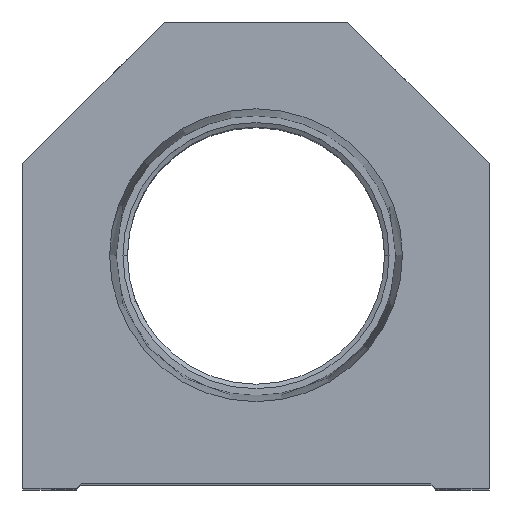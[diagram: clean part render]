
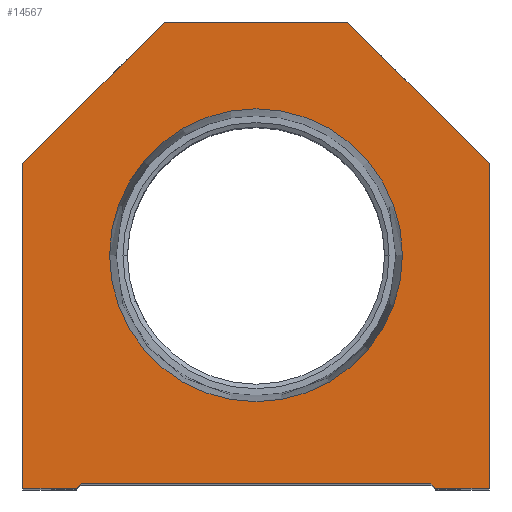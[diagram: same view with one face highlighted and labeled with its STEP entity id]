
A CAD part, top view. The second image highlights one B-rep face of the part: STEP entity #14567.
In plain terms, the highlighted planar face has unit normal (0, 0, 1).
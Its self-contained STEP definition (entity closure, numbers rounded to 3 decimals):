
#61 = EDGE_CURVE ( 'NONE', #9214, #12433, #3705, .T. ) ;
#377 = AXIS2_PLACEMENT_3D ( 'NONE', #14531, #766, #3542 ) ;
#611 = VECTOR ( 'NONE', #11131, 1000. ) ;
#653 = DIRECTION ( 'NONE',  ( 0., -1., 0. ) ) ;
#714 = CARTESIAN_POINT ( 'NONE',  ( -9.775, 9.775, 0. ) ) ;
#766 = DIRECTION ( 'NONE',  ( 0., 0., 1. ) ) ;
#881 = CARTESIAN_POINT ( 'NONE',  ( -19.05, 0.5, 0. ) ) ;
#882 = DIRECTION ( 'NONE',  ( 0., 0., 1. ) ) ;
#951 = ORIENTED_EDGE ( 'NONE', *, *, #1193, .F. ) ;
#1040 = VERTEX_POINT ( 'NONE', #14560 ) ;
#1073 = CARTESIAN_POINT ( 'NONE',  ( -25.4, 35.4, 0. ) ) ;
#1169 = CIRCLE ( 'NONE', #377, 15.947 ) ;
#1193 = EDGE_CURVE ( 'NONE', #1754, #1040, #6827, .T. ) ;
#1460 = VERTEX_POINT ( 'NONE', #1560 ) ;
#1540 = DIRECTION ( 'NONE',  ( 1., 0., 0. ) ) ;
#1560 = CARTESIAN_POINT ( 'NONE',  ( 25.4, 35.4, 0. ) ) ;
#1724 = ORIENTED_EDGE ( 'NONE', *, *, #9687, .T. ) ;
#1754 = VERTEX_POINT ( 'NONE', #8595 ) ;
#1769 = CARTESIAN_POINT ( 'NONE',  ( 10., 50.8, 0. ) ) ;
#2103 = FACE_BOUND ( 'NONE', #7082, .T. ) ;
#2371 = CARTESIAN_POINT ( 'NONE',  ( -25.4, 35.4, 0. ) ) ;
#2385 = VERTEX_POINT ( 'NONE', #2371 ) ;
#2792 = ORIENTED_EDGE ( 'NONE', *, *, #10096, .T. ) ;
#2834 = ORIENTED_EDGE ( 'NONE', *, *, #15370, .T. ) ;
#2995 = EDGE_CURVE ( 'NONE', #6760, #2385, #5976, .T. ) ;
#3068 = DIRECTION ( 'NONE',  ( 1., 0., 0. ) ) ;
#3096 = VECTOR ( 'NONE', #653, 1000. ) ;
#3285 = LINE ( 'NONE', #11027, #13303 ) ;
#3404 = VERTEX_POINT ( 'NONE', #1769 ) ;
#3542 = DIRECTION ( 'NONE',  ( 1., 0., 0. ) ) ;
#3705 = LINE ( 'NONE', #13868, #611 ) ;
#3954 = ORIENTED_EDGE ( 'NONE', *, *, #7252, .F. ) ;
#4369 = ORIENTED_EDGE ( 'NONE', *, *, #7360, .T. ) ;
#4757 = DIRECTION ( 'NONE',  ( -0.707, -0.707, 0. ) ) ;
#5377 = ORIENTED_EDGE ( 'NONE', *, *, #2995, .T. ) ;
#5432 = CARTESIAN_POINT ( 'NONE',  ( -19.05, 0.5, 0. ) ) ;
#5928 = ORIENTED_EDGE ( 'NONE', *, *, #10319, .T. ) ;
#5976 = LINE ( 'NONE', #1073, #7223 ) ;
#6760 = VERTEX_POINT ( 'NONE', #10700 ) ;
#6827 = CIRCLE ( 'NONE', #10459, 15.947 ) ;
#6909 = EDGE_CURVE ( 'NONE', #10987, #9214, #9452, .T. ) ;
#7082 = EDGE_LOOP ( 'NONE', ( #3954, #951 ) ) ;
#7098 = PLANE ( 'NONE',  #12498 ) ;
#7163 = CARTESIAN_POINT ( 'NONE',  ( -19.55, 0., 0. ) ) ;
#7223 = VECTOR ( 'NONE', #4757, 1000. ) ;
#7252 = EDGE_CURVE ( 'NONE', #1040, #1754, #1169, .T. ) ;
#7262 = VERTEX_POINT ( 'NONE', #7163 ) ;
#7273 = VECTOR ( 'NONE', #9384, 1000. ) ;
#7360 = EDGE_CURVE ( 'NONE', #1460, #3404, #10467, .T. ) ;
#7625 = CARTESIAN_POINT ( 'NONE',  ( -19.05, 0., 0. ) ) ;
#7697 = DIRECTION ( 'NONE',  ( 1., 0., 0. ) ) ;
#7963 = DIRECTION ( 'NONE',  ( 0., 0., 1. ) ) ;
#8093 = LINE ( 'NONE', #15565, #3096 ) ;
#8194 = ORIENTED_EDGE ( 'NONE', *, *, #11079, .T. ) ;
#8195 = CARTESIAN_POINT ( 'NONE',  ( 25.4, 0., 0. ) ) ;
#8382 = ORIENTED_EDGE ( 'NONE', *, *, #15238, .T. ) ;
#8595 = CARTESIAN_POINT ( 'NONE',  ( -15.947, 25.4, 0. ) ) ;
#8750 = LINE ( 'NONE', #13762, #14601 ) ;
#8765 = LINE ( 'NONE', #7625, #11941 ) ;
#8799 = VECTOR ( 'NONE', #13146, 1000. ) ;
#9214 = VERTEX_POINT ( 'NONE', #12497 ) ;
#9310 = EDGE_LOOP ( 'NONE', ( #2792, #1724, #10555, #13966, #2834, #8194, #4369, #8382, #5377, #5928 ) ) ;
#9384 = DIRECTION ( 'NONE',  ( 0.707, 0.707, 0. ) ) ;
#9429 = LINE ( 'NONE', #8195, #8799 ) ;
#9452 = LINE ( 'NONE', #5432, #14101 ) ;
#9622 = FACE_OUTER_BOUND ( 'NONE', #9310, .T. ) ;
#9687 = EDGE_CURVE ( 'NONE', #7262, #10987, #15547, .T. ) ;
#9878 = CARTESIAN_POINT ( 'NONE',  ( 25.4, 0., 0. ) ) ;
#10096 = EDGE_CURVE ( 'NONE', #14020, #7262, #8765, .T. ) ;
#10319 = EDGE_CURVE ( 'NONE', #2385, #14020, #8093, .T. ) ;
#10323 = DIRECTION ( 'NONE',  ( 1., 0., 0. ) ) ;
#10457 = VERTEX_POINT ( 'NONE', #9878 ) ;
#10459 = AXIS2_PLACEMENT_3D ( 'NONE', #15202, #7963, #10323 ) ;
#10467 = LINE ( 'NONE', #12892, #13165 ) ;
#10555 = ORIENTED_EDGE ( 'NONE', *, *, #6909, .T. ) ;
#10700 = CARTESIAN_POINT ( 'NONE',  ( -10., 50.8, 0. ) ) ;
#10987 = VERTEX_POINT ( 'NONE', #881 ) ;
#11027 = CARTESIAN_POINT ( 'NONE',  ( 10., 50.8, 0. ) ) ;
#11079 = EDGE_CURVE ( 'NONE', #10457, #1460, #9429, .T. ) ;
#11131 = DIRECTION ( 'NONE',  ( 0.707, -0.707, 0. ) ) ;
#11941 = VECTOR ( 'NONE', #7697, 1000. ) ;
#12041 = CARTESIAN_POINT ( 'NONE',  ( 0., 0., 0. ) ) ;
#12433 = VERTEX_POINT ( 'NONE', #13584 ) ;
#12497 = CARTESIAN_POINT ( 'NONE',  ( 19.05, 0.5, 0. ) ) ;
#12498 = AXIS2_PLACEMENT_3D ( 'NONE', #12041, #882, #15537 ) ;
#12892 = CARTESIAN_POINT ( 'NONE',  ( 25.4, 35.4, 0. ) ) ;
#13146 = DIRECTION ( 'NONE',  ( 0., 1., 0. ) ) ;
#13165 = VECTOR ( 'NONE', #15416, 1000. ) ;
#13303 = VECTOR ( 'NONE', #13453, 1000. ) ;
#13453 = DIRECTION ( 'NONE',  ( -1., 0., 0. ) ) ;
#13584 = CARTESIAN_POINT ( 'NONE',  ( 19.55, 0., 0. ) ) ;
#13762 = CARTESIAN_POINT ( 'NONE',  ( 19.05, 0., 0. ) ) ;
#13868 = CARTESIAN_POINT ( 'NONE',  ( 9.775, 9.775, 0. ) ) ;
#13957 = CARTESIAN_POINT ( 'NONE',  ( -25.4, 0., 0. ) ) ;
#13966 = ORIENTED_EDGE ( 'NONE', *, *, #61, .T. ) ;
#14020 = VERTEX_POINT ( 'NONE', #13957 ) ;
#14101 = VECTOR ( 'NONE', #3068, 1000. ) ;
#14531 = CARTESIAN_POINT ( 'NONE',  ( 0., 25.4, 0. ) ) ;
#14560 = CARTESIAN_POINT ( 'NONE',  ( 15.947, 25.4, 0. ) ) ;
#14567 = ADVANCED_FACE ( 'NONE', ( #2103, #9622 ), #7098, .T. ) ;
#14601 = VECTOR ( 'NONE', #1540, 1000. ) ;
#15202 = CARTESIAN_POINT ( 'NONE',  ( 0., 25.4, 0. ) ) ;
#15238 = EDGE_CURVE ( 'NONE', #3404, #6760, #3285, .T. ) ;
#15370 = EDGE_CURVE ( 'NONE', #12433, #10457, #8750, .T. ) ;
#15416 = DIRECTION ( 'NONE',  ( -0.707, 0.707, 0. ) ) ;
#15537 = DIRECTION ( 'NONE',  ( 1., 0., 0. ) ) ;
#15547 = LINE ( 'NONE', #714, #7273 ) ;
#15565 = CARTESIAN_POINT ( 'NONE',  ( -25.4, 0., 0. ) ) ;
